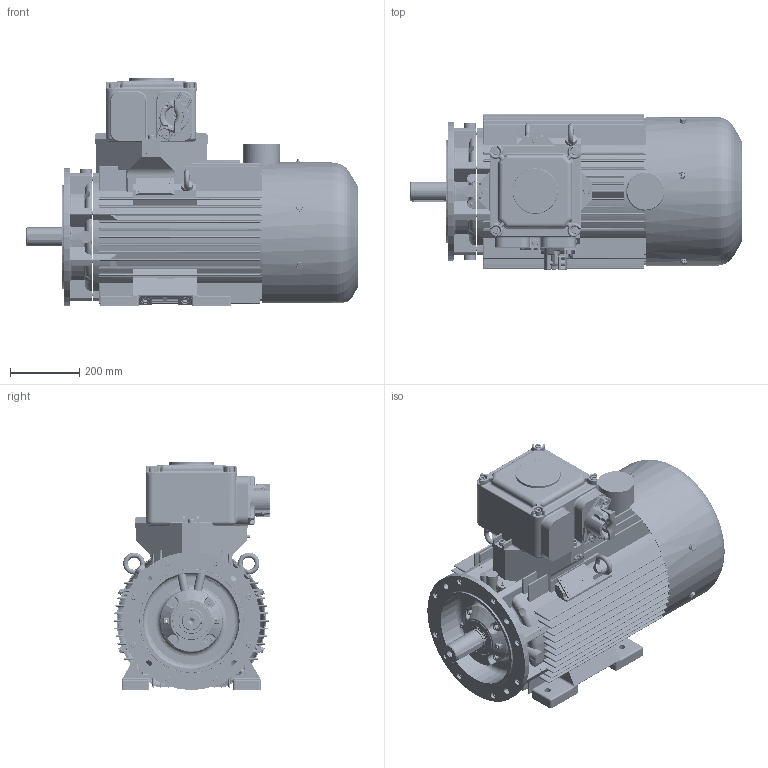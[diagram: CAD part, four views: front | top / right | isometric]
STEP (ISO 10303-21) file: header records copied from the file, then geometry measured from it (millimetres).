
FILE_DESCRIPTION(/* description */ ('Unknown'),/* implementation_level */ '2;1');
FILE_NAME(/* name */ 'EcSTLe200L(2-8)-(IE2-3) - wykonwnie OUTSIDE !',/* time_stamp */ '2021-12-22T14:04:33+01:00',/* author */ ('Unknown'),/* organization */ ('Unknown'),/* preprocessor_version */ 'ST-DEVELOPER v16.7',/* originating_system */ 'DEX',/* authorisation */ $);
FILE_SCHEMA (('AUTOMOTIVE_DESIGN {1 0 10303 214 3 1 1}'));
Products named in the file (1): EcSTLe200L(2-8)-(IE2-3) - wykonwnie OUTSIDE
Bounding box: 960.63 x 452 x 660.03 mm (x, y, z)
Volume: 28531667.7 mm3; surface area: 6566511.3 mm2
Topology: 154 solids, 155 shells, 8003 faces, 20834 edges, 13319 vertices
Faces by surface type: plane 4552, cylinder 1830, cone 561, torus 506, bspline 411, sphere 143
Full cylindrical faces by diameter (mm): 1.2 x4, 1.6 x2, 2.013 x1, 2.5 x6, 3 x4, 3.1 x4, 3.2 x2, 3.4 x4, 4.773 x2, 4.917 x4, 5 x3, 5.35 x2, 6 x6, 6.2 x3, 6.4 x2, 6.466 x4, 6.5 x2, 6.647 x4, 8 x14, 8.16 x32, 8.376 x16, 8.5 x4, 8.8 x1, 8.917 x3, 9 x4, 9.853 x9, 10 x69, 10.106 x9, 10.5 x4, 11 x24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
Entity records: 280566 total; most frequent: CARTESIAN_POINT 73401, ORIENTED_EDGE 38792, DIRECTION 37698, EDGE_CURVE 19396, VERTEX_POINT 12976, AXIS2_PLACEMENT_3D 12699, LINE 12300, VECTOR 12300
